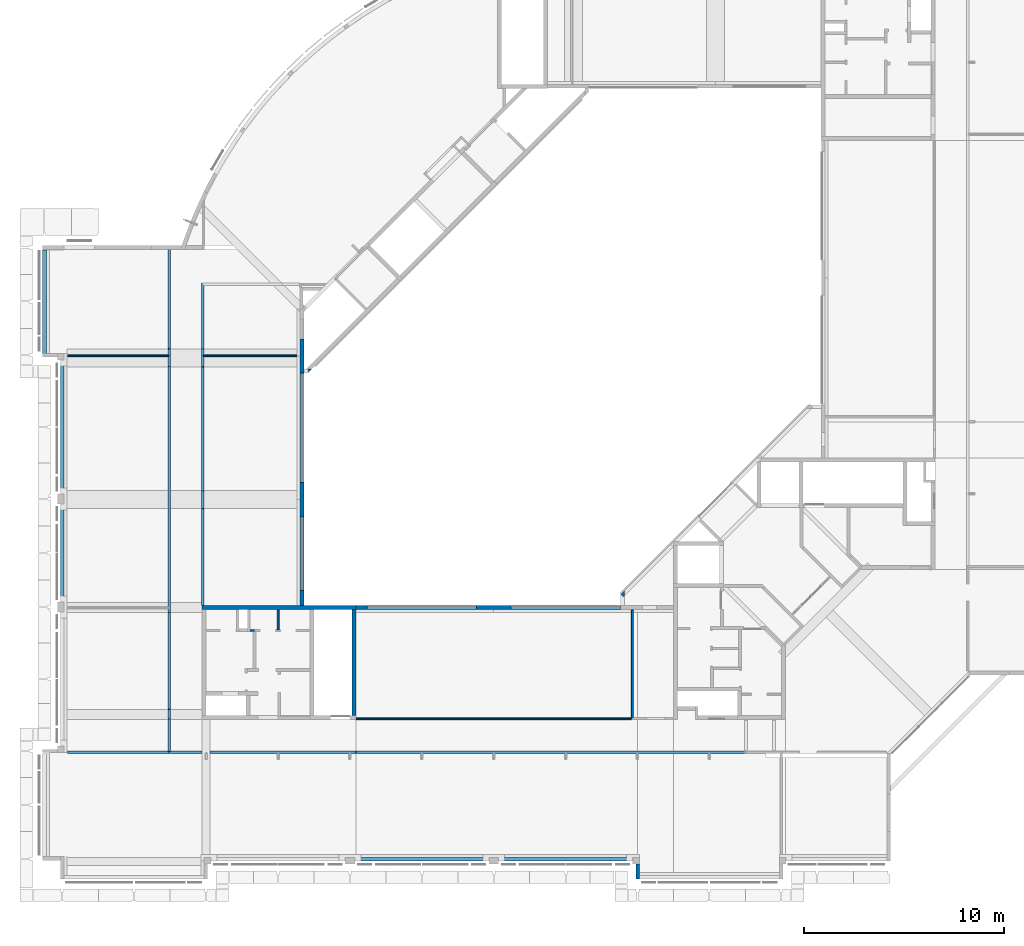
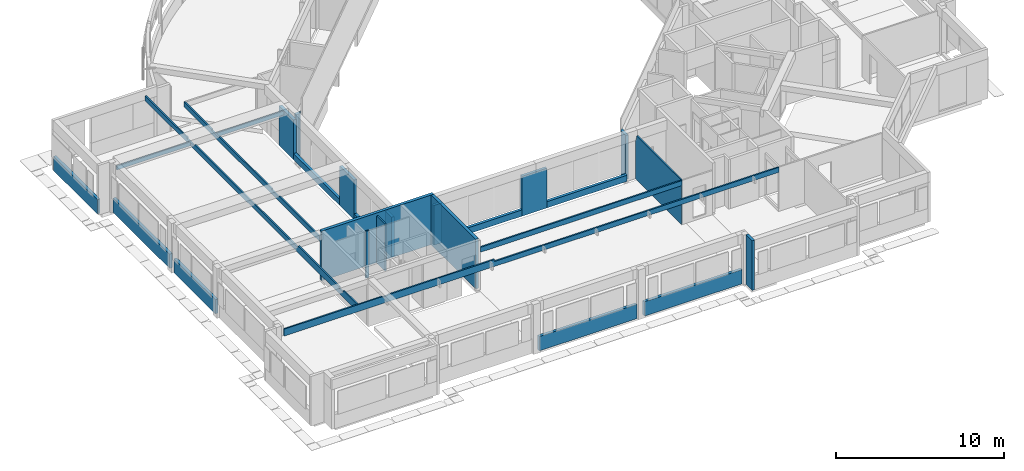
# One storey, part 12 of 26: 28 walls.
"""IFC4X3_ADD2 building model written with IfcOpenShell, lengths in millimetres."""

import ifcopenshell
import ifcopenshell.guid

model = None  # the IFC model being written
_history = None  # IfcOwnerHistory: only IFC2X3 demands one
_inside = {}  # id of a spatial element -> (the spatial element, [elements in it])
_under = {}  # id of a project, library or spatial element -> (it, [spatial elements below it])
_declared = {}  # id of a project -> (the project, [libraries it declares])
_typed = {}  # id of a type object -> (the type object, [elements of that type])
_made_of = {}  # id of a material, layer set ... -> (it, [elements and type objects made of it])


def new_model(schema):
    """Start an empty IFC model of exactly this schema.

    Asked for "IFC4X3", IfcOpenShell would pick the latest addendum, in which some entities
    have other attributes; the version numbers below select the first issue.
    IFC2X3 requires an IfcOwnerHistory on every rooted entity: one is made here for all.
    """
    global model, _history
    if schema == "IFC4X3":
        model = ifcopenshell.file(schema_version=(4, 3, 0, 0))
    else:
        model = ifcopenshell.file(schema=schema)
    _inside.clear()
    _under.clear()
    _declared.clear()
    _typed.clear()
    _made_of.clear()
    _history = None
    if model.schema == "IFC2X3":
        org = make("IfcOrganization", Name="unknown")
        user = make(
            "IfcPersonAndOrganization",
            ThePerson=make("IfcPerson", FamilyName="unknown"),
            TheOrganization=org,
        )
        app = make(
            "IfcApplication",
            ApplicationDeveloper=org,
            Version="unknown",
            ApplicationFullName="unknown",
            ApplicationIdentifier="unknown",
        )
        _history = make(
            "IfcOwnerHistory",
            OwningUser=user,
            OwningApplication=app,
            ChangeAction="ADDED",
            CreationDate=0,
        )
    return model


def make(cls, **values):
    """One entity of the class cls with the attributes given. An attribute that is None is left unset."""
    return model.create_entity(
        cls, **{name: value for name, value in values.items() if value is not None}
    )


def rooted(cls, **values):
    """An entity with a GlobalId (a new one), such as an element, a storey or a relation."""
    return make(cls, GlobalId=ifcopenshell.guid.new(), OwnerHistory=_history, **values)


def si_unit(unit_type, name, prefix=None):
    """IfcSIUnit, for example si_unit("LENGTHUNIT", "METRE", prefix="MILLI")."""
    return make("IfcSIUnit", UnitType=unit_type, Prefix=prefix, Name=name)


def assignment(units):
    """IfcUnitAssignment: the units of a project."""
    return None if units is None else make("IfcUnitAssignment", Units=units)


def point(xyz):
    """IfcCartesianPoint."""
    return None if xyz is None else make("IfcCartesianPoint", Coordinates=xyz)


def direction(xyz):
    """IfcDirection."""
    return None if xyz is None else make("IfcDirection", DirectionRatios=xyz)


def frame(location, z_axis=None, x_axis=None):
    """IfcAxis2Placement3D, a coordinate frame: its origin and axes. An axis left out is left unset."""
    return make(
        "IfcAxis2Placement3D",
        Location=point(location),
        Axis=direction(z_axis),
        RefDirection=direction(x_axis),
    )


def frame_2d(location, x_axis=None):
    """IfcAxis2Placement2D, a coordinate frame in the plane: its origin and x axis."""
    return make(
        "IfcAxis2Placement2D", Location=point(location), RefDirection=direction(x_axis)
    )


def origin_with_axes():
    """The frame at (0, 0, 0) with the z axis (0, 0, 1) and the x axis (1, 0, 0) written out."""
    return frame((0.0, 0.0, 0.0), z_axis=(0.0, 0.0, 1.0), x_axis=(1.0, 0.0, 0.0))


def origin_2d_with_axis():
    """The frame at (0, 0) in the plane with the x axis (1, 0) written out."""
    return frame_2d((0.0, 0.0), x_axis=(1.0, 0.0))


def place(relative_to, where):
    """IfcLocalPlacement: puts the frame where relative to a parent placement (None: the world)."""
    return make(
        "IfcLocalPlacement", PlacementRelTo=relative_to, RelativePlacement=where
    )


def context(
    kind, dimensions, precision=None, world=None, true_north=None, identifier=None
):
    """IfcGeometricRepresentationContext, for example the 3D "Model" context."""
    return make(
        "IfcGeometricRepresentationContext",
        ContextIdentifier=identifier,
        ContextType=kind,
        CoordinateSpaceDimension=dimensions,
        Precision=precision,
        WorldCoordinateSystem=world,
        TrueNorth=true_north,
    )


def subcontext(parent, identifier, kind, view, scale=None):
    """IfcGeometricRepresentationSubContext, for example "Body" below "Model"."""
    return make(
        "IfcGeometricRepresentationSubContext",
        ContextIdentifier=identifier,
        ContextType=kind,
        ParentContext=parent,
        TargetScale=scale,
        TargetView=view,
    )


def project(units=None, contexts=None):
    """IfcProject with its units and contexts."""
    return rooted(
        "IfcProject",
        Name="project",
        RepresentationContexts=contexts,
        UnitsInContext=assignment(units),
    )


def spatial(cls, under=None, at=None, **own):
    """A site, building, storey or space (cls), placed at a placement, below another one or the project."""
    s = rooted(cls, ObjectPlacement=at, **own)
    if under is not None:
        _under.setdefault(under.id(), (under, []))[1].append(s)
    return s


def polyline(points):
    """IfcPolyline through the points."""
    return make("IfcPolyline", Points=[point(p) for p in points])


def profile(cls, at=None, kind="AREA", **sizes):
    """A parametric profile (cls). Its sizes go by their IFC names, for example OverallWidth=200.0."""
    return make(cls, ProfileType=kind, Position=at, **sizes)


def rectangle(**sizes):
    """IfcRectangleProfileDef."""
    return profile("IfcRectangleProfileDef", **sizes)


def outline(outer, holes=None, kind="AREA"):
    """IfcArbitraryClosedProfileDef: a profile drawn as a closed curve; with holes, ...WithVoids."""
    if holes is None:
        return make("IfcArbitraryClosedProfileDef", ProfileType=kind, OuterCurve=outer)
    return make(
        "IfcArbitraryProfileDefWithVoids",
        ProfileType=kind,
        OuterCurve=outer,
        InnerCurves=holes,
    )


def extrude(swept, where, along, depth):
    """IfcExtrudedAreaSolid: the profile swept, set in the frame where, extruded along a direction by depth."""
    return make(
        "IfcExtrudedAreaSolid",
        SweptArea=swept,
        Position=where,
        ExtrudedDirection=direction(along),
        Depth=depth,
    )


def shape(context_of_items, identifier, shape_type, items):
    """IfcShapeRepresentation: the items that make up one representation, for example the "Body"."""
    return make(
        "IfcShapeRepresentation",
        ContextOfItems=context_of_items,
        RepresentationIdentifier=identifier,
        RepresentationType=shape_type,
        Items=items,
    )


def source(mapping_origin, context_of_items, identifier, shape_type, items):
    """IfcRepresentationMap: a shape defined once, which mapped items show again and again."""
    return make(
        "IfcRepresentationMap",
        MappingOrigin=mapping_origin,
        MappedRepresentation=shape(context_of_items, identifier, shape_type, items),
    )


def transform(
    local_origin,
    x_axis=None,
    y_axis=None,
    z_axis=None,
    scale=None,
    scale2=None,
    scale3=None,
    uniform=True,
):
    """IfcCartesianTransformationOperator3D, or its non-uniform kind. x_axis, y_axis, z_axis: its Axis1, 2, 3."""
    if uniform:
        return make(
            "IfcCartesianTransformationOperator3D",
            Axis1=direction(x_axis),
            Axis2=direction(y_axis),
            LocalOrigin=point(local_origin),
            Scale=scale,
            Axis3=direction(z_axis),
        )
    return make(
        "IfcCartesianTransformationOperator3DnonUniform",
        Axis1=direction(x_axis),
        Axis2=direction(y_axis),
        LocalOrigin=point(local_origin),
        Scale=scale,
        Axis3=direction(z_axis),
        Scale2=scale2,
        Scale3=scale3,
    )


def mapped(mapping_source, mapping_target):
    """IfcMappedItem: shows the shape of a source again, moved by a transform."""
    return make(
        "IfcMappedItem", MappingSource=mapping_source, MappingTarget=mapping_target
    )


def material(Name=None, Category=None):
    """IfcMaterial."""
    return make("IfcMaterial", Name=Name, Category=Category)


def made_of(thing, what):
    """Note that an element or type object is made of a material, layer set ...; save() writes the relation."""
    if what is not None:
        _made_of.setdefault(what.id(), (what, []))[1].append(thing)
    return thing


def type_object(cls, material=None, **own):
    """A type object (cls), such as IfcWallType, which elements share."""
    return made_of(rooted(cls, **own), material)


def type_shapes(of_type, sources):
    """Give a type object the sources (RepresentationMaps) that its elements show as mapped items."""
    of_type.RepresentationMaps = sources


def element(
    cls,
    number,
    at=None,
    inside=None,
    cuts=None,
    type_object=None,
    material=None,
    context=None,
    identifier="Body",
    shape_type=None,
    held_by="IfcProductDefinitionShape",
    body=None,
    shapes=None,
    **own,
):
    """One element of the class cls, such as IfcWall. Its Tag is "e" and its number.

    at: its placement. inside: the storey or other place that contains it. cuts: it is an
    opening in that element (IfcRelVoidsElement). A single representation is given by context,
    identifier, shape_type and body (its items); several are given by shapes. held_by: the class
    of the entity that holds the representations. save() writes the other relations.
    """
    e = rooted(cls, Tag="e%d" % number, ObjectPlacement=at, **own)
    if body is not None:
        shapes = [shape(context, identifier, shape_type, body)]
    if shapes is not None:
        e.Representation = make(held_by, Representations=shapes)
    if inside is not None:
        _inside.setdefault(inside.id(), (inside, []))[1].append(e)
    if cuts is not None:
        rooted(
            "IfcRelVoidsElement", RelatingBuildingElement=cuts, RelatedOpeningElement=e
        )
    if type_object is not None:
        _typed.setdefault(type_object.id(), (type_object, []))[1].append(e)
    return made_of(e, material)


def aggregate(whole, parts):
    """IfcRelAggregates: a whole, such as a stair, and the parts it consists of."""
    return rooted("IfcRelAggregates", RelatingObject=whole, RelatedObjects=parts)


def save(model, path):
    """Write the relations noted so far, then the file.

    IfcRelAggregates (storeys below a building ...), IfcRelContainedInSpatialStructure (elements
    in a storey), IfcRelDefinesByType, IfcRelAssociatesMaterial and IfcRelDeclares: one each for
    every whole, place, type object, material and project.
    """
    for whole, parts in _under.values():
        aggregate(whole, parts)
    for where, things in _inside.values():
        rooted(
            "IfcRelContainedInSpatialStructure",
            RelatedElements=things,
            RelatingStructure=where,
        )
    for kind, things in _typed.values():
        rooted("IfcRelDefinesByType", RelatedObjects=things, RelatingType=kind)
    for what, things in _made_of.values():
        rooted("IfcRelAssociatesMaterial", RelatedObjects=things, RelatingMaterial=what)
    for by, libraries in _declared.values():
        rooted("IfcRelDeclares", RelatingContext=by, RelatedDefinitions=libraries)
    model.write(path)


model = new_model("IFC4X3_ADD2")

# Units and contexts
model_context = context("Model", 3, precision=1e-05, world=origin_with_axes(), true_north=direction((0.0, 1.0)))
body_context = subcontext(model_context, "Body", "Model", "MODEL_VIEW")
ifc_project = project(units=[si_unit("LENGTHUNIT", "METRE", prefix="MILLI"), si_unit("AREAUNIT", "SQUARE_METRE"), si_unit("VOLUMEUNIT", "CUBIC_METRE"), si_unit("PLANEANGLEUNIT", "RADIAN"), si_unit("TIMEUNIT", "SECOND"), si_unit("MASSUNIT", "GRAM")], contexts=[model_context])

# Site, building, storey
site_placement = place(None, origin_with_axes())
site = spatial("IfcSite", under=ifc_project, at=site_placement, Name="Site", CompositionType="ELEMENT")
building_placement = place(site_placement, origin_with_axes())
building = spatial("IfcBuilding", under=site, at=building_placement, Name="IFC Building Story")
storey_placement = place(building_placement, frame((0.0, 0.0, 7200.0), z_axis=(0.0, 0.0, 1.0), x_axis=(1.0, 0.0, 0.0)))
storey = spatial("IfcBuildingStorey", under=building, at=storey_placement, Name="020", Elevation=7200.0)

# Walls
ifc_material_1 = material(Name="BB_Beton_Bestaand")
wall_type_1 = type_object("IfcWallType", Name="BB_Beton_Bestaand 200", PredefinedType="NOTDEFINED", material=ifc_material_1)
wall_1_placement = place(storey_placement, origin_with_axes())
element("IfcWall", 1, at=wall_1_placement, inside=storey, type_object=wall_type_1, Name="Basic Wall:BB_XX_Wand uit beton, 200 mm", ObjectType="Basic Wall:BB_XX_Wand uit beton, 200 mm", PredefinedType="SOLIDWALL", context=body_context, shape_type="SweptSolid", body=[
    extrude(rectangle(XDim=7699.999999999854, YDim=199.9999999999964, at=origin_2d_with_axis()), frame((-39850.00000000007, 12600.0040658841, -80.0), z_axis=(0.0, 0.0, 1.0), x_axis=(1.0, 0.0, 0.0)), (0.0, 0.0, 1.0), 3600.0),
])
wall_2_placement = place(storey_placement, origin_with_axes())
element("IfcWall", 2, at=wall_2_placement, inside=storey, type_object=wall_type_1, Name="Basic Wall:BB_XX_Wand uit beton, 200 mm", ObjectType="Basic Wall:BB_XX_Wand uit beton, 200 mm", PredefinedType="SOLIDWALL", context=body_context, shape_type="SweptSolid", body=[
    extrude(rectangle(XDim=5300.00406588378, YDim=200.0, at=frame_2d((0.0, 0.0), x_axis=(0.0, 1.0))), frame((-36100.0, 9850.002032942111, -80.0), z_axis=(0.0, 0.0, 1.0), x_axis=(1.0, 0.0, 0.0)), (0.0, 0.0, 1.0), 3600.0),
])
wall_type_2 = type_object("IfcWallType", Name="BB_Beton_Bestaand 190", PredefinedType="NOTDEFINED", material=ifc_material_1)
wall_3_placement = place(storey_placement, origin_with_axes())
element("IfcWall", 3, at=wall_3_placement, inside=storey, type_object=wall_type_2, Name="Basic Wall:BB_XX_Wand uit beton, 190 mm", ObjectType="Basic Wall:BB_XX_Wand uit beton, 190 mm", PredefinedType="SOLIDWALL", context=body_context, shape_type="SweptSolid", body=[
    extrude(rectangle(XDim=4910.0, YDim=189.9999999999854, at=frame_2d((0.0, 0.0), x_axis=(0.0, 1.0))), frame((-50700.0, 15300.00000000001, -200.0), z_axis=(0.0, 0.0, 1.0), x_axis=(1.0, 0.0, 0.0)), (0.0, 0.0, 1.0), 1030.0),
])
wall_4_placement = place(storey_placement, origin_with_axes())
element("IfcWall", 4, at=wall_4_placement, inside=storey, type_object=wall_type_2, Name="Basic Wall:BB_XX_Wand uit beton, 190 mm", ObjectType="Basic Wall:BB_XX_Wand uit beton, 190 mm", PredefinedType="SOLIDWALL", context=body_context, shape_type="SweptSolid", body=[
    extrude(rectangle(XDim=6710.000000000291, YDim=189.9999999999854, at=frame_2d((0.0, 0.0), x_axis=(0.0, 1.0))), frame((-50700.0, 21630.00000000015, -200.0), z_axis=(0.0, 0.0, 1.0), x_axis=(1.0, 0.0, 0.0)), (0.0, 0.0, 1.0), 1040.0),
])
wall_5_placement = place(storey_placement, origin_with_axes())
element("IfcWall", 5, at=wall_5_placement, inside=storey, type_object=wall_type_2, Name="Basic Wall:BB_XX_Wand uit beton, 190 mm", ObjectType="Basic Wall:BB_XX_Wand uit beton, 190 mm", PredefinedType="SOLIDWALL", context=body_context, shape_type="SweptSolid", body=[
    extrude(rectangle(XDim=5209.99999999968, YDim=189.9999999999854, at=frame_2d((0.0, 0.0), x_axis=(0.0, 1.0))), frame((-51600.0, 27899.99999999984, -200.0), z_axis=(0.0, 0.0, 1.0), x_axis=(1.0, 0.0, 0.0)), (0.0, 0.0, 1.0), 1040.0),
])
wall_6_placement = place(storey_placement, origin_with_axes())
element("IfcWall", 6, at=wall_6_placement, inside=storey, type_object=wall_type_2, Name="Basic Wall:BB_XX_Wand uit beton, 190 mm", ObjectType="Basic Wall:BB_XX_Wand uit beton, 190 mm", PredefinedType="SOLIDWALL", context=body_context, shape_type="SweptSolid", body=[
    extrude(rectangle(XDim=6709.999999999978, YDim=190.0, at=origin_2d_with_axis()), frame((-32700.00000000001, 0.0, -200.0), z_axis=(0.0, 0.0, 1.0), x_axis=(1.0, 0.0, 0.0)), (0.0, 0.0, 1.0), 1040.0),
])
wall_7_placement = place(storey_placement, origin_with_axes())
element("IfcWall", 7, at=wall_7_placement, inside=storey, type_object=wall_type_2, Name="Basic Wall:BB_XX_Wand uit beton, 190 mm", ObjectType="Basic Wall:BB_XX_Wand uit beton, 190 mm", PredefinedType="SOLIDWALL", context=body_context, shape_type="SweptSolid", body=[
    extrude(rectangle(XDim=6709.999999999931, YDim=190.0, at=origin_2d_with_axis()), frame((-25500.00000000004, 0.0, -200.0), z_axis=(0.0, 0.0, 1.0), x_axis=(1.0, 0.0, 0.0)), (0.0, 0.0, 1.0), 1040.0),
])
wall_8_placement = place(storey_placement, origin_with_axes())
element("IfcWall", 8, at=wall_8_placement, inside=storey, type_object=wall_type_2, Name="Basic Wall:BB_XX_Wand uit beton, 190 mm", ObjectType="Basic Wall:BB_XX_Wand uit beton, 190 mm", PredefinedType="SOLIDWALL", context=body_context, shape_type="SweptSolid", body=[
    extrude(rectangle(XDim=554.9999999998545, YDim=190.0, at=origin_2d_with_axis()), frame((-35722.50000000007, 12600.004065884, -200.0), z_axis=(0.0, 0.0, 1.0), x_axis=(1.0, 0.0, 0.0)), (0.0, 0.0, 1.0), 2880.0),
])
wall_9_placement = place(storey_placement, origin_with_axes())
element("IfcWall", 9, at=wall_9_placement, inside=storey, type_object=wall_type_2, Name="Basic Wall:BB_XX_Wand uit beton, 190 mm", ObjectType="Basic Wall:BB_XX_Wand uit beton, 190 mm", PredefinedType="SOLIDWALL", context=body_context, shape_type="SweptSolid", body=[
    extrude(rectangle(XDim=1709.999999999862, YDim=190.0, at=origin_2d_with_axis()), frame((-29100.0, 12600.004065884, -200.0), z_axis=(0.0, 0.0, 1.0), x_axis=(1.0, 0.0, 0.0)), (0.0, 0.0, 1.0), 2880.0),
])
wall_10_placement = place(storey_placement, origin_with_axes())
element("IfcWall", 10, at=wall_10_placement, inside=storey, type_object=wall_type_2, Name="Basic Wall:BB_XX_Wand uit beton, 190 mm", ObjectType="Basic Wall:BB_XX_Wand uit beton, 190 mm", PredefinedType="SOLIDWALL", context=body_context, shape_type="SweptSolid", body=[
    extrude(rectangle(XDim=754.995934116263, YDim=190.0, at=frame_2d((0.0, 0.0), x_axis=(0.0, 1.0))), frame((-38700.0, 13077.50203294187, -200.0), z_axis=(0.0, 0.0, 1.0), x_axis=(1.0, 0.0, 0.0)), (0.0, 0.0, 1.0), 2880.0),
])
wall_11_placement = place(storey_placement, origin_with_axes())
element("IfcWall", 11, at=wall_11_placement, inside=storey, type_object=wall_type_2, Name="Basic Wall:BB_XX_Wand uit beton, 190 mm", ObjectType="Basic Wall:BB_XX_Wand uit beton, 190 mm", PredefinedType="SOLIDWALL", context=body_context, shape_type="SweptSolid", body=[
    extrude(rectangle(XDim=1710.0, YDim=190.0, at=frame_2d((0.0, 0.0), x_axis=(0.0, 1.0))), frame((-38700.0, 18000.0, -200.0), z_axis=(0.0, 0.0, 1.0), x_axis=(1.0, 0.0, 0.0)), (0.0, 0.0, 1.0), 2880.0),
])
wall_12_placement = place(storey_placement, origin_with_axes())
element("IfcWall", 12, at=wall_12_placement, inside=storey, type_object=wall_type_2, Name="Basic Wall:BB_XX_Wand uit beton, 190 mm", ObjectType="Basic Wall:BB_XX_Wand uit beton, 190 mm", PredefinedType="SOLIDWALL", context=body_context, shape_type="SweptSolid", body=[
    extrude(rectangle(XDim=1710.0, YDim=190.0, at=frame_2d((0.0, 0.0), x_axis=(0.0, 1.0))), frame((-38700.0, 25200.0, -200.0), z_axis=(0.0, 0.0, 1.0), x_axis=(1.0, 0.0, 0.0)), (0.0, 0.0, 1.0), 2880.0),
])
wall_13_placement = place(storey_placement, origin_with_axes())
element("IfcWall", 13, at=wall_13_placement, inside=storey, type_object=wall_type_2, Name="Basic Wall:BB_XX_Wand uit beton, 190 mm", ObjectType="Basic Wall:BB_XX_Wand uit beton, 190 mm", PredefinedType="SOLIDWALL", context=body_context, shape_type="SweptSolid", body=[
    extrude(rectangle(XDim=3689.999999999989, YDim=190.0, at=frame_2d((0.0, 0.0), x_axis=(0.0, 1.0))), frame((-38700.0, 15300.00000000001, -200.0), z_axis=(0.0, 0.0, 1.0), x_axis=(1.0, 0.0, 0.0)), (0.0, 0.0, 1.0), 449.999999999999),
])
wall_14_placement = place(storey_placement, origin_with_axes())
element("IfcWall", 14, at=wall_14_placement, inside=storey, type_object=wall_type_2, Name="Basic Wall:BB_XX_Wand uit beton, 190 mm", ObjectType="Basic Wall:BB_XX_Wand uit beton, 190 mm", PredefinedType="SOLIDWALL", context=body_context, shape_type="SweptSolid", body=[
    extrude(rectangle(XDim=5489.999999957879, YDim=190.0, at=frame_2d((0.0, 0.0), x_axis=(0.0, 1.0))), frame((-38700.0, 21600.00000002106, -200.0), z_axis=(0.0, 0.0, 1.0), x_axis=(1.0, 0.0, 0.0)), (0.0, 0.0, 1.0), 449.999999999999),
])
wall_15_placement = place(storey_placement, origin_with_axes())
element("IfcWall", 15, at=wall_15_placement, inside=storey, type_object=wall_type_2, Name="Basic Wall:BB_XX_Wand uit beton, 190 mm", ObjectType="Basic Wall:BB_XX_Wand uit beton, 190 mm", PredefinedType="SOLIDWALL", context=body_context, shape_type="SweptSolid", body=[
    extrude(rectangle(XDim=5490.000000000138, YDim=190.0, at=origin_2d_with_axis()), frame((-25499.99999999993, 12600.004065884, -200.0), z_axis=(0.0, 0.0, 1.0), x_axis=(1.0, 0.0, 0.0)), (0.0, 0.0, 1.0), 449.999999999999),
])
wall_16_placement = place(storey_placement, origin_with_axes())
element("IfcWall", 16, at=wall_16_placement, inside=storey, type_object=wall_type_2, Name="Basic Wall:BB_XX_Wand uit beton, 190 mm", ObjectType="Basic Wall:BB_XX_Wand uit beton, 190 mm", PredefinedType="SOLIDWALL", context=body_context, shape_type="SweptSolid", body=[
    extrude(rectangle(XDim=5490.0, YDim=190.0, at=origin_2d_with_axis()), frame((-32700.0, 12600.004065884, -200.0), z_axis=(0.0, 0.0, 1.0), x_axis=(1.0, 0.0, 0.0)), (0.0, 0.0, 1.0), 449.999999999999),
])
wall_type_3 = type_object("IfcWallType", Name="BB_Beton_Bestaand 170", PredefinedType="NOTDEFINED", material=ifc_material_1)
wall_17_placement = place(storey_placement, origin_with_axes())
element("IfcWall", 17, at=wall_17_placement, inside=storey, type_object=wall_type_3, Name="Basic Wall:BB_XX_Wand uit beton, 170 mm", ObjectType="Basic Wall:BB_XX_Wand uit beton, 170 mm", PredefinedType="SOLIDWALL", context=body_context, shape_type="SweptSolid", body=[
    extrude(rectangle(XDim=750.00000000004, YDim=169.9999999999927, at=frame_2d((0.0, 0.0), x_axis=(0.0, 1.0))), frame((-21890.0, -619.99999999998, -200.0), z_axis=(0.0, 0.0, 1.0), x_axis=(1.0, 0.0, 0.0)), (0.0, 0.0, 1.0), 3600.0),
])
ifc_material_2 = material(Name="BB_Metselwerk_Betonsteen")
wall_type_4 = type_object("IfcWallType", Name="BB_Metselwerk_Betonsteen 190", PredefinedType="NOTDEFINED", material=ifc_material_2)
wall_18_placement = place(storey_placement, origin_with_axes())
element("IfcWall", 18, at=wall_18_placement, inside=storey, type_object=wall_type_4, Name="Basic Wall:BB_03.09.24#03_Wand uit metselwerk, 190 mm", ObjectType="Basic Wall:BB_03.09.24#03_Wand uit metselwerk, 190 mm", PredefinedType="SOLIDWALL", context=body_context, shape_type="SweptSolid", body=[
    extrude(outline(polyline([(95.0, 424.8958182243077), (95.0, -329.8958182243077), (-95.0, -329.8958182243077), (-95.0, 234.8958182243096), (95.0, 424.8958182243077)])), frame((-22649.8526351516, 13024.89988410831, -200.0), z_axis=(0.0, 0.0, 1.0), x_axis=(1.0, 0.0, 0.0)), (0.0, 0.0, 1.0), 3200.0),
])
wall_type_5 = type_object("IfcWallType", Name="BB_Metselwerk_Betonsteen 0", PredefinedType="NOTDEFINED", material=ifc_material_2)
wall_19_placement = place(storey_placement, origin_with_axes())
element("IfcWall", 19, at=wall_19_placement, inside=storey, type_object=wall_type_5, Name="Basic Wall:BB_03.09.24#05_Wand uit metselwerk_EI60, 190 mm", ObjectType="Basic Wall:BB_03.09.24#05_Wand uit metselwerk_EI60, 190 mm", PredefinedType="SOLIDWALL", context=body_context, shape_type="SweptSolid", body=[
    extrude(outline(polyline([(-147.3484809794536, 95.0), (242.3484809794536, 95.0), (52.3484809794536, -95.0), (-147.3484809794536, -95.0), (-147.3484809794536, 95.0)])), frame((-38457.65151902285, 24450.0, -200.0), z_axis=(0.0, 0.0, 1.0), x_axis=(1.0, 0.0, 0.0)), (0.0, 0.0, 1.0), 3200.0),
])
wall_type_6 = type_object("IfcWallType", Name="Basic Wall_BB_10.01.41#21_Gipskartonwand_EI60_43dB_MS100 _ 25.50.25_ 100 mm45", PredefinedType="NOTDEFINED")
shared_shape_1 = source(origin_with_axes(), body_context, "Body", "SweptSolid", [
    extrude(outline(polyline([(-3609.915914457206, -1161.666666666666), (-3609.915914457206, 2038.333333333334), (1872.457957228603, 2038.333333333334), (1872.457957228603, -876.6666666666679), (1737.457957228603, -876.6666666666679), (1737.457957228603, -1161.666666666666), (-3609.915914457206, -1161.666666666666)])), frame((3522.415914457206, 37.49999999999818, 2038.333333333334), z_axis=(0.0, 1.0, 0.0), x_axis=(1.0, 0.0, 0.0)), (0.0, 0.0, 1.0), 12.50000000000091),
    extrude(outline(polyline([(-3601.582581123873, -1161.666666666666), (-3601.582581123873, 2038.333333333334), (1868.291290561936, 2038.333333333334), (1868.291290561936, -876.6666666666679), (1733.291290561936, -876.6666666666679), (1733.291290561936, -1161.666666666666), (-3601.582581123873, -1161.666666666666)])), frame((3526.582581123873, 24.99999999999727, 2038.333333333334), z_axis=(0.0, 1.0, 0.0), x_axis=(1.0, 0.0, 0.0)), (0.0, 0.0, 1.0), 12.50000000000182),
    extrude(outline(polyline([(-3571.582581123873, -1161.666666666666), (-3571.582581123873, 2038.333333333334), (1848.291290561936, 2038.333333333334), (1848.291290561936, -876.6666666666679), (1723.291290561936, -876.6666666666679), (1723.291290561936, -1161.666666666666), (-3571.582581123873, -1161.666666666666)])), frame((3546.582581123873, -24.99999999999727, 2038.333333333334), z_axis=(0.0, 1.0, 0.0), x_axis=(1.0, 0.0, 0.0)), (0.0, 0.0, 1.0), 49.99999999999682),
    extrude(outline(polyline([(-3559.915914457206, -1161.666666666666), (-3559.915914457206, 2038.333333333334), (1847.457957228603, 2038.333333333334), (1847.457957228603, -876.6666666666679), (1712.457957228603, -876.6666666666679), (1712.457957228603, -1161.666666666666), (-3559.915914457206, -1161.666666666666)])), frame((3547.415914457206, -37.50000000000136, 2038.333333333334), z_axis=(0.0, 1.0, 0.0), x_axis=(1.0, 0.0, 0.0)), (0.0, 0.0, 1.0), 12.50000000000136),
    extrude(outline(polyline([(1708.291290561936, -1161.666666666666), (-3551.582581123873, -1161.666666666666), (-3551.582581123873, 2038.333333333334), (1843.291290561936, 2038.333333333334), (1843.291290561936, -876.6666666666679), (1708.291290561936, -876.6666666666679), (1708.291290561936, -1161.666666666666)])), frame((3551.582581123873, -49.99999999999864, 2038.333333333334), z_axis=(0.0, 1.0, 0.0), x_axis=(1.0, 0.0, 0.0)), (0.0, 0.0, 1.0), 12.49999999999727),
])
type_shapes(wall_type_6, [shared_shape_1])
wall_20_placement = place(storey_placement, frame((-22150.0, 7085.13019419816, -200.0), z_axis=(0.0, 0.0, 1.0), x_axis=(0.0, 1.0, 0.0)))
element("IfcWall", 20, at=wall_20_placement, inside=storey, type_object=wall_type_6, Name="Basic Wall:BB_10.01.41#21_Gipskartonwand_EI60_43dB_MS100 / 25.50.25, 100 mm", ObjectType="Basic Wall:BB_10.01.41#21_Gipskartonwand_EI60_43dB_MS100 / 25.50.25, 100 mm", PredefinedType="PARTITIONING", context=body_context, shape_type="MappedRepresentation", body=[
    mapped(shared_shape_1, transform((0.0, 0.0, 0.0))),
])
wall_type_7 = type_object("IfcWallType", Name="Basic Wall_BB_10.01.41#01_Gipskartonwand_MS100 _ 25.50.25_ 100 mm83", PredefinedType="NOTDEFINED")
shared_shape_2 = source(origin_with_axes(), body_context, "Body", "SweptSolid", [
    extrude(outline(polyline([(-12443.9999999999, 364.0), (21486.00000000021, 364.0), (21486.00000000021, 3.999999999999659), (1985.999999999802, 3.999999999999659), (1985.999999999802, -136.0), (-5314.000000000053, -136.0), (-5314.000000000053, -95.99999999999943), (-5714.000000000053, -95.99999999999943), (-5714.000000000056, -136.0), (-12443.9999999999, -136.0), (-12443.9999999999, 364.0)])), frame((12443.99999999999, 37.4999999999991, 363.9999999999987), z_axis=(0.0, 1.0, 0.0), x_axis=(1.0, 0.0, 0.0)), (0.0, 0.0, 1.0), 12.5000000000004),
    extrude(outline(polyline([(-12443.9999999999, 364.0), (21486.00000000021, 364.0), (21486.00000000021, 3.999999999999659), (1985.999999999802, 3.999999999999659), (1985.999999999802, -136.0), (-5314.000000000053, -136.0), (-5314.000000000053, -95.99999999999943), (-5714.000000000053, -95.99999999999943), (-5714.000000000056, -136.0), (-12443.9999999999, -136.0), (-12443.9999999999, 364.0)])), frame((12443.99999999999, 25.0, 363.9999999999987), z_axis=(0.0, 1.0, 0.0), x_axis=(1.0, 0.0, 0.0)), (0.0, 0.0, 1.0), 12.49999999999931),
    extrude(outline(polyline([(-12443.9999999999, 364.0), (21486.00000000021, 364.0), (21486.00000000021, 3.999999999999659), (1985.999999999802, 3.999999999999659), (1985.999999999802, -136.0), (-5314.000000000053, -136.0), (-5314.000000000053, -95.99999999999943), (-5714.000000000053, -95.99999999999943), (-5714.000000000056, -136.0), (-12443.9999999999, -136.0), (-12443.9999999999, 364.0)])), frame((12443.99999999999, -25.0, 363.9999999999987), z_axis=(0.0, 1.0, 0.0), x_axis=(1.0, 0.0, 0.0)), (0.0, 0.0, 1.0), 49.9999999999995),
    extrude(outline(polyline([(-12443.9999999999, 364.0), (21486.00000000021, 364.0), (21486.00000000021, 3.999999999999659), (1985.999999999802, 3.999999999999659), (1985.999999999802, -136.0), (-5314.000000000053, -136.0), (-5314.000000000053, -95.99999999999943), (-5714.000000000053, -95.99999999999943), (-5714.000000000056, -136.0), (-12443.9999999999, -136.0), (-12443.9999999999, 364.0)])), frame((12443.99999999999, -37.5000000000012, 364.0), z_axis=(0.0, 1.0, 0.0), x_axis=(1.0, 0.0, 0.0)), (0.0, 0.0, 1.0), 12.5000000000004),
    extrude(outline(polyline([(-12443.9999999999, 364.0), (21486.00000000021, 364.0), (21486.00000000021, 3.999999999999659), (1985.999999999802, 3.999999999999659), (1985.999999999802, -136.0), (-5314.000000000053, -136.0), (-5314.000000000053, -95.99999999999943), (-5714.000000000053, -95.99999999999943), (-5714.000000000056, -136.0), (-12443.9999999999, -136.0), (-12443.9999999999, 364.0)])), frame((12443.99999999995, -50.0, 364.0000000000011), z_axis=(0.0, 1.0, 0.0), x_axis=(1.0, 0.0, 0.0)), (0.0, 0.0, 1.0), 12.5000000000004),
])
type_shapes(wall_type_7, [shared_shape_2])
wall_21_placement = place(storey_placement, frame((-50430.0, 5350.0, 2640.0), z_axis=(0.0, 0.0, 1.0), x_axis=(1.0, 0.0, 0.0)))
element("IfcWall", 21, at=wall_21_placement, inside=storey, type_object=wall_type_7, Name="Basic Wall:BB_10.01.41#01_Gipskartonwand_MS100 / 25.50.25, 100 mm", ObjectType="Basic Wall:BB_10.01.41#01_Gipskartonwand_MS100 / 25.50.25, 100 mm", PredefinedType="PARTITIONING", context=body_context, shape_type="MappedRepresentation", body=[
    mapped(shared_shape_2, transform((0.0, 0.0, 0.0))),
])
wall_type_8 = type_object("IfcWallType", Name="Basic Wall_BB_10.01.41#01_Gipskartonwand_MS100 _ 25.50.25_ 100 mm107", PredefinedType="NOTDEFINED")
shared_shape_3 = source(origin_with_axes(), body_context, "Body", "SweptSolid", [
    extrude(outline(polyline([(-14384.2857142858, 337.1428571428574), (10740.7142857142, 337.1428571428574), (10740.7142857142, -162.8571428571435), (9140.71428571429, -162.8571428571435), (9140.71428571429, -22.85714285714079), (8640.71428571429, -22.85714285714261), (8640.71428571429, -162.8571428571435), (3790.714285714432, -162.8571428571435), (3790.714285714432, -22.85714285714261), (-8514.285714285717, -22.85714285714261), (-8514.285714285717, 57.14285714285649), (-9414.285714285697, 57.14285714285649), (-9414.285714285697, -22.85714285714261), (-14384.2857142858, -22.85714285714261), (-14384.2857142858, 337.1428571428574)])), frame((14369.2857142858, 37.49999999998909, 337.1428571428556), z_axis=(0.0, 1.0, 0.0), x_axis=(1.0, 0.0, 0.0)), (0.0, 0.0, 1.0), 12.5),
    extrude(outline(polyline([(-14384.2857142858, 337.1428571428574), (10740.7142857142, 337.1428571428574), (10740.7142857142, -162.8571428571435), (9140.71428571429, -162.8571428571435), (9140.71428571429, -22.85714285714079), (8640.71428571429, -22.85714285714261), (8640.71428571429, -162.8571428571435), (3790.714285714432, -162.8571428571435), (3790.714285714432, -22.85714285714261), (-8514.285714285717, -22.85714285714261), (-8514.285714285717, 57.14285714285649), (-9414.285714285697, 57.14285714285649), (-9414.285714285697, -22.85714285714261), (-14384.2857142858, -22.85714285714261), (-14384.2857142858, 337.1428571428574)])), frame((14369.2857142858, 25.0, 337.1428571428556), z_axis=(0.0, 1.0, 0.0), x_axis=(1.0, 0.0, 0.0)), (0.0, 0.0, 1.0), 12.49999999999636),
    extrude(outline(polyline([(-14396.42857142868, 337.1428571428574), (10763.57142857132, 337.1428571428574), (10763.57142857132, -162.8571428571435), (9138.57142857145, -162.8571428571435), (9138.57142857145, -22.85714285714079), (8638.57142857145, -22.85714285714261), (8638.57142857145, -162.8571428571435), (3788.571428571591, -162.8571428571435), (3788.571428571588, -22.85714285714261), (-8516.42857142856, -22.85714285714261), (-8516.42857142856, 57.14285714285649), (-9416.42857142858, 57.14285714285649), (-9416.42857142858, -22.85714285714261), (-14396.42857142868, -22.85714285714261), (-14396.42857142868, 337.1428571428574)])), frame((14371.42857142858, -25.0, 337.1428571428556), z_axis=(0.0, 1.0, 0.0), x_axis=(1.0, 0.0, 0.0)), (0.0, 0.0, 1.0), 50.00000000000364),
    extrude(outline(polyline([(-14386.07142857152, 337.1428571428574), (10751.42857142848, 337.1428571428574), (10751.42857142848, -162.8571428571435), (9138.928571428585, -162.8571428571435), (9138.928571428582, -22.85714285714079), (8638.928571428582, -22.85714285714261), (8638.928571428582, -162.8571428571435), (3788.928571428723, -162.8571428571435), (3788.928571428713, -22.85714285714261), (-8516.071428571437, -22.85714285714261), (-8516.071428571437, 57.14285714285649), (-9416.071428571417, 57.14285714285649), (-9416.071428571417, -22.85714285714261), (-14386.07142857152, -22.85714285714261), (-14386.07142857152, 337.1428571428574)])), frame((14371.07142857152, -37.49999999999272, 337.1428571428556), z_axis=(0.0, 1.0, 0.0), x_axis=(1.0, 0.0, 0.0)), (0.0, 0.0, 1.0), 12.49999999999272),
    extrude(outline(polyline([(-14384.2857142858, 337.1428571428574), (10740.7142857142, 337.1428571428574), (10740.7142857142, -162.8571428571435), (9140.71428571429, -162.8571428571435), (9140.71428571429, -22.85714285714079), (8640.71428571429, -22.85714285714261), (8640.71428571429, -162.8571428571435), (3790.714285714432, -162.8571428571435), (3790.714285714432, -22.85714285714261), (-8514.285714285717, -22.85714285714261), (-8514.285714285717, 57.14285714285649), (-9414.285714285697, 57.14285714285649), (-9414.285714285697, -22.85714285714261), (-14384.2857142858, -22.85714285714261), (-14384.2857142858, 337.1428571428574)])), frame((14369.28571428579, -50.0, 337.1428571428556), z_axis=(0.0, 1.0, 0.0), x_axis=(1.0, 0.0, 0.0)), (0.0, 0.0, 1.0), 12.50000000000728),
])
type_shapes(wall_type_8, [shared_shape_3])
wall_22_placement = place(storey_placement, frame((-45350.0, 30510.0, 2640.0), z_axis=(0.0, 0.0, 1.0), x_axis=(0.0, -1.0, 0.0)))
element("IfcWall", 22, at=wall_22_placement, inside=storey, type_object=wall_type_8, Name="Basic Wall:BB_10.01.41#01_Gipskartonwand_MS100 / 25.50.25, 100 mm", ObjectType="Basic Wall:BB_10.01.41#01_Gipskartonwand_MS100 / 25.50.25, 100 mm", PredefinedType="PARTITIONING", context=body_context, shape_type="MappedRepresentation", body=[
    mapped(shared_shape_3, transform((0.0, 0.0, 0.0))),
])
wall_type_9 = type_object("IfcWallType", Name="Basic Wall_BB_10.01.41#01_Gipskartonwand_MS100 _ 25.50.25_ 100 mm109", PredefinedType="NOTDEFINED")
shared_shape_4 = source(origin_with_axes(), body_context, "Body", "SweptSolid", [
    extrude(rectangle(XDim=5029.99999999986, YDim=12.50000000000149, at=origin_2d_with_axis()), frame((2515.0, 43.74999999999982, 0.0), z_axis=(0.0, 0.0, 1.0), x_axis=(1.0, 0.0, 0.0)), (0.0, 0.0, 1.0), 280.000000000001),
    extrude(rectangle(XDim=5029.99999999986, YDim=12.50000000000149, at=origin_2d_with_axis()), frame((2515.0, 31.25000000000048, 0.0), z_axis=(0.0, 0.0, 1.0), x_axis=(1.0, 0.0, 0.0)), (0.0, 0.0, 1.0), 280.000000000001),
    extrude(rectangle(XDim=5054.99999999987, YDim=49.9999999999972, at=origin_2d_with_axis()), frame((2502.49999999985, 0.0, 0.0), z_axis=(0.0, 0.0, 1.0), x_axis=(1.0, 0.0, 0.0)), (0.0, 0.0, 1.0), 280.000000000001),
    extrude(rectangle(XDim=5042.49999999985, YDim=12.50000000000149, at=origin_2d_with_axis()), frame((2508.74999999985, -31.24999999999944, 0.0), z_axis=(0.0, 0.0, 1.0), x_axis=(1.0, 0.0, 0.0)), (0.0, 0.0, 1.0), 280.000000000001),
    extrude(rectangle(XDim=5029.99999999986, YDim=12.49999999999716, at=origin_2d_with_axis()), frame((2515.0, -43.74999999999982, 0.0), z_axis=(0.0, 0.0, 1.0), x_axis=(1.0, 0.0, 0.0)), (0.0, 0.0, 1.0), 280.000000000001),
])
type_shapes(wall_type_9, [shared_shape_4])
wall_23_placement = place(storey_placement, frame((-45400.0, 25200.0, 2640.0), z_axis=(0.0, 0.0, 1.0), x_axis=(-1.0, 0.0, 0.0)))
element("IfcWall", 23, at=wall_23_placement, inside=storey, type_object=wall_type_9, Name="Basic Wall:BB_10.01.41#01_Gipskartonwand_MS100 / 25.50.25, 100 mm", ObjectType="Basic Wall:BB_10.01.41#01_Gipskartonwand_MS100 / 25.50.25, 100 mm", PredefinedType="PARTITIONING", context=body_context, shape_type="MappedRepresentation", body=[
    mapped(shared_shape_4, transform((0.0, 0.0, 0.0))),
])
wall_type_10 = type_object("IfcWallType", Name="Basic Wall_BB_10.01.41#01_Gipskartonwand_MS100 _ 25.50.25_ 100 mm115", PredefinedType="NOTDEFINED")
shared_shape_5 = source(origin_with_axes(), body_context, "Body", "SweptSolid", [
    extrude(rectangle(XDim=13785.00000000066, YDim=12.49999999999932, at=origin_2d_with_axis()), frame((6892.50000000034, 43.75000000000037, 0.0), z_axis=(0.0, 0.0, 1.0), x_axis=(1.0, 0.0, 0.0)), (0.0, 0.0, 1.0), 360.0),
    extrude(rectangle(XDim=13785.00000000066, YDim=12.5000000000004, at=origin_2d_with_axis()), frame((6892.50000000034, 31.2500000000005, 0.0), z_axis=(0.0, 0.0, 1.0), x_axis=(1.0, 0.0, 0.0)), (0.0, 0.0, 1.0), 360.0),
    extrude(rectangle(XDim=13785.00000000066, YDim=49.9999999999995, at=origin_2d_with_axis()), frame((6892.50000000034, 0.0, 0.0), z_axis=(0.0, 0.0, 1.0), x_axis=(1.0, 0.0, 0.0)), (0.0, 0.0, 1.0), 360.0),
    extrude(rectangle(XDim=13785.00000000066, YDim=12.5000000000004, at=origin_2d_with_axis()), frame((6892.50000000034, -31.2499999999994, 0.0), z_axis=(0.0, 0.0, 1.0), x_axis=(1.0, 0.0, 0.0)), (0.0, 0.0, 1.0), 360.0),
    extrude(rectangle(XDim=13785.00000000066, YDim=12.50000000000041, at=origin_2d_with_axis()), frame((6892.50000000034, -43.74999999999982, 0.0), z_axis=(0.0, 0.0, 1.0), x_axis=(1.0, 0.0, 0.0)), (0.0, 0.0, 1.0), 360.0),
])
type_shapes(wall_type_10, [shared_shape_5])
wall_24_placement = place(storey_placement, frame((-22200.0, 7035.0, 2640.0), z_axis=(0.0, 0.0, 1.0), x_axis=(-1.0, 0.0, 0.0)))
element("IfcWall", 24, at=wall_24_placement, inside=storey, type_object=wall_type_10, Name="Basic Wall:BB_10.01.41#01_Gipskartonwand_MS100 / 25.50.25, 100 mm", ObjectType="Basic Wall:BB_10.01.41#01_Gipskartonwand_MS100 / 25.50.25, 100 mm", PredefinedType="PARTITIONING", context=body_context, shape_type="MappedRepresentation", body=[
    mapped(shared_shape_5, transform((0.0, 0.0, 0.0))),
])
wall_type_11 = type_object("IfcWallType", Name="Basic Wall_BB_10.01.41#01_Gipskartonwand_MS100 _ 25.50.25_ 100 mm121", PredefinedType="NOTDEFINED")
shared_shape_6 = source(origin_with_axes(), body_context, "Body", "SweptSolid", [
    extrude(outline(polyline([(-3745.834010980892, -86.66666666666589), (-8580.829945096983, -86.6666666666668), (-8580.829945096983, 273.3333333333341), (7554.165989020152, 273.3333333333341), (7554.165989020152, -86.6666666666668), (4259.165989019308, -86.6666666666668), (4259.165989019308, -6.666666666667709), (3359.16598901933, -6.666666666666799), (3359.16598901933, -86.66666666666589), (-2845.834010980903, -86.6666666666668), (-2845.834010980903, -6.666666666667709), (-3745.834010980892, -6.666666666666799), (-3745.834010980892, -86.66666666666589)])), frame((8580.829945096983, 37.50000000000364, 273.3333333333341), z_axis=(0.0, 1.0, 0.0), x_axis=(1.0, 0.0, 0.0)), (0.0, 0.0, 1.0), 12.49999999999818),
    extrude(outline(polyline([(-8578.746611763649, 273.3333333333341), (7543.749322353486, 273.3333333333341), (7543.749322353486, -86.6666666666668), (4261.249322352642, -86.6666666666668), (4261.249322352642, -6.666666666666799), (3361.249322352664, -6.666666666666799), (3361.249322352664, -86.6666666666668), (-2843.75067764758, -86.6666666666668), (-2843.750677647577, -6.666666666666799), (-3743.750677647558, -6.666666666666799), (-3743.750677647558, -86.6666666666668), (-8578.746611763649, -86.6666666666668), (-8578.746611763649, 273.3333333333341)])), frame((8578.746611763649, 25.00000000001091, 273.3333333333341), z_axis=(0.0, 1.0, 0.0), x_axis=(1.0, 0.0, 0.0)), (0.0, 0.0, 1.0), 12.49999999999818),
    extrude(outline(polyline([(-8576.663278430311, 273.3333333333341), (7533.332655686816, 273.3333333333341), (7533.332655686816, -86.6666666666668), (4263.332655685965, -86.6666666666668), (4263.332655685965, -6.666666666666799), (3363.332655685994, -6.666666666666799), (3363.332655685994, -86.6666666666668), (-2841.667344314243, -86.6666666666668), (-2841.667344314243, -6.666666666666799), (-3741.667344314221, -6.666666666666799), (-3741.667344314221, -86.6666666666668), (-8576.663278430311, -86.6666666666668), (-8576.663278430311, 273.3333333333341)])), frame((8576.663278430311, -25.00000000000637, 273.3333333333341), z_axis=(0.0, 1.0, 0.0), x_axis=(1.0, 0.0, 0.0)), (0.0, 0.0, 1.0), 50.00000000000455),
    extrude(outline(polyline([(-8568.32994509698, 273.3333333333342), (7491.665989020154, 273.3333333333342), (7491.665989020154, -86.66666666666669), (4271.66598901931, -86.66666666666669), (4271.66598901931, -6.666666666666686), (3371.665989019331, -6.666666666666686), (3371.665989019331, -86.66666666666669), (-2833.334010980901, -86.66666666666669), (-2833.334010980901, -6.666666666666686), (-3733.334010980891, -6.666666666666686), (-3733.334010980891, -86.66666666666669), (-8568.32994509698, -86.6666666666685), (-8568.32994509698, 273.3333333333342)])), frame((8568.32994509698, -37.49999999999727, 273.3333333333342), z_axis=(0.0, 1.0, 0.0), x_axis=(1.0, 0.0, 0.0)), (0.0, 0.0, 1.0), 12.49999999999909),
    extrude(outline(polyline([(-8566.24661176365, 273.3333333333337), (7481.249322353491, 273.3333333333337), (7481.249322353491, -86.66666666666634), (4273.74932235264, -86.66666666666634), (4273.74932235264, -6.666666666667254), (3373.749322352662, -6.666666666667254), (3373.749322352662, -86.66666666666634), (-2831.250677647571, -86.66666666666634), (-2831.250677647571, -6.666666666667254), (-3731.25067764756, -6.666666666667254), (-3731.25067764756, -86.66666666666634), (-8566.24661176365, -86.66666666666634), (-8566.24661176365, 273.3333333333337)])), frame((8566.24661176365, -50.00000000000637, 273.3333333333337), z_axis=(0.0, 1.0, 0.0), x_axis=(1.0, 0.0, 0.0)), (0.0, 0.0, 1.0), 12.50000000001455),
])
type_shapes(wall_type_11, [shared_shape_6])
wall_25_placement = place(storey_placement, frame((-43665.0, 12715.0040658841, 2640.0), z_axis=(0.0, 0.0, 1.0), x_axis=(0.0, 1.0, 0.0)))
element("IfcWall", 25, at=wall_25_placement, inside=storey, type_object=wall_type_11, Name="Basic Wall:BB_10.01.41#01_Gipskartonwand_MS100 / 25.50.25, 100 mm", ObjectType="Basic Wall:BB_10.01.41#01_Gipskartonwand_MS100 / 25.50.25, 100 mm", PredefinedType="PARTITIONING", context=body_context, shape_type="MappedRepresentation", body=[
    mapped(shared_shape_6, transform((0.0, 0.0, 0.0))),
])
wall_type_12 = type_object("IfcWallType", Name="Basic Wall_BB_10.01.41#01_Gipskartonwand_MS100 _ 25.50.25_ 100 mm129", PredefinedType="NOTDEFINED")
shared_shape_7 = source(origin_with_axes(), body_context, "Body", "SweptSolid", [
    extrude(rectangle(XDim=4644.99999999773, YDim=12.50000000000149, at=origin_2d_with_axis()), frame((2322.499999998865, 43.75000000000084, 0.0), z_axis=(0.0, 0.0, 1.0), x_axis=(1.0, 0.0, 0.0)), (0.0, 0.0, 1.0), 280.000000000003),
    extrude(rectangle(XDim=4644.99999999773, YDim=12.50000000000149, at=origin_2d_with_axis()), frame((2322.499999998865, 31.24999999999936, 0.0), z_axis=(0.0, 0.0, 1.0), x_axis=(1.0, 0.0, 0.0)), (0.0, 0.0, 1.0), 280.000000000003),
    extrude(rectangle(XDim=4669.99999999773, YDim=49.9999999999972, at=origin_2d_with_axis()), frame((2310.000000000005, 0.0, 0.0), z_axis=(0.0, 0.0, 1.0), x_axis=(1.0, 0.0, 0.0)), (0.0, 0.0, 1.0), 280.000000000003),
    extrude(rectangle(XDim=4657.49999999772, YDim=12.50000000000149, at=origin_2d_with_axis()), frame((2316.24999999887, -31.24999999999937, 0.0), z_axis=(0.0, 0.0, 1.0), x_axis=(1.0, 0.0, 0.0)), (0.0, 0.0, 1.0), 280.000000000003),
    extrude(rectangle(XDim=4644.99999999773, YDim=12.49999999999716, at=origin_2d_with_axis()), frame((2322.499999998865, -43.7499999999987, 0.0), z_axis=(0.0, 0.0, 1.0), x_axis=(1.0, 0.0, 0.0)), (0.0, 0.0, 1.0), 280.000000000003),
])
type_shapes(wall_type_12, [shared_shape_7])
wall_26_placement = place(storey_placement, frame((-43615.0, 25200.0, 2640.0), z_axis=(0.0, 0.0, 1.0), x_axis=(1.0, 0.0, 0.0)))
element("IfcWall", 26, at=wall_26_placement, inside=storey, type_object=wall_type_12, Name="Basic Wall:BB_10.01.41#01_Gipskartonwand_MS100 / 25.50.25, 100 mm", ObjectType="Basic Wall:BB_10.01.41#01_Gipskartonwand_MS100 / 25.50.25, 100 mm", PredefinedType="PARTITIONING", context=body_context, shape_type="MappedRepresentation", body=[
    mapped(shared_shape_7, transform((0.0, 0.0, 0.0))),
])
ifc_material_3 = material(Name="BB_Metselwerk_Bestaand")
wall_type_13 = type_object("IfcWallType", Name="BB_Metselwerk_Bestaand 100", PredefinedType="NOTDEFINED", material=ifc_material_3)
wall_27_placement = place(storey_placement, origin_with_axes())
element("IfcWall", 27, at=wall_27_placement, inside=storey, type_object=wall_type_13, Name="Basic Wall:BB_XX_Wand uit metselwerk, 100 mm", ObjectType="Basic Wall:BB_XX_Wand uit metselwerk, 100 mm", PredefinedType="SOLIDWALL", context=body_context, shape_type="SweptSolid", body=[
    extrude(rectangle(XDim=1000.000000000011, YDim=100.0, at=frame_2d((0.0, 0.0), x_axis=(0.0, 1.0))), frame((-39895.0, 12000.00406588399, -80.0), z_axis=(0.0, 0.0, 1.0), x_axis=(1.0, 0.0, 0.0)), (0.0, 0.0, 1.0), 3400.0),
])
wall_type_14 = type_object("IfcWallType", Name="BB_Metselwerk_Bestaand 90", PredefinedType="NOTDEFINED", material=ifc_material_3)
wall_28_placement = place(storey_placement, origin_with_axes())
element("IfcWall", 28, at=wall_28_placement, inside=storey, type_object=wall_type_14, Name="Basic Wall:BB_XX_Wand uit metselwerk, 90 mm", ObjectType="Basic Wall:BB_XX_Wand uit metselwerk, 90 mm", PredefinedType="SOLIDWALL", context=body_context, shape_type="SweptSolid", body=[
    extrude(rectangle(XDim=220.0, YDim=90.00000000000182, at=origin_2d_with_axis()), frame((-41190.0, 11455.004065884, -80.0), z_axis=(0.0, 0.0, 1.0), x_axis=(1.0, 0.0, 0.0)), (0.0, 0.0, 1.0), 3400.0),
])

save(model, "model.ifc")
